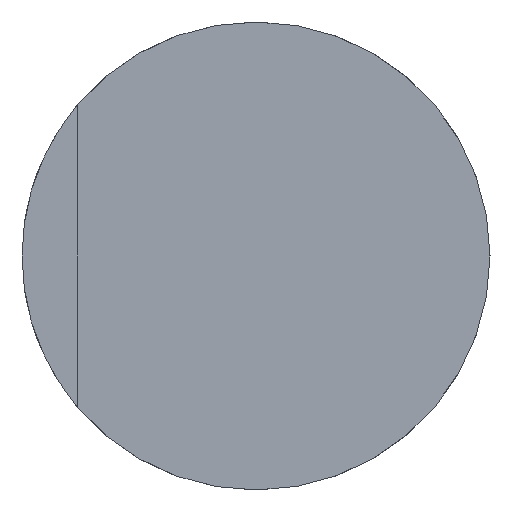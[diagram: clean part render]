
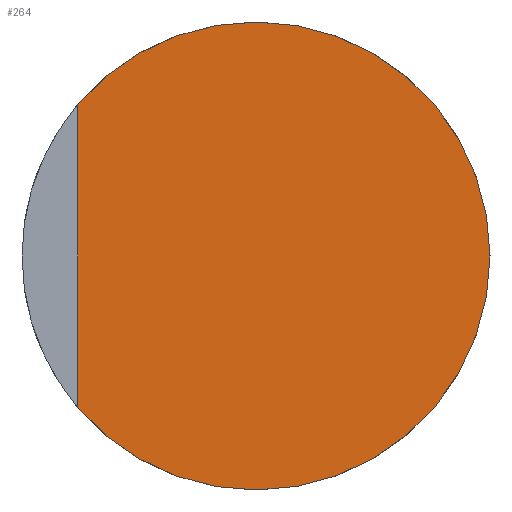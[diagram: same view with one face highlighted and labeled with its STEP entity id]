
A CAD part, left-side view. The second image highlights one B-rep face of the part: STEP entity #264.
In plain terms, the highlighted planar face has unit normal (-1, 0, 0).
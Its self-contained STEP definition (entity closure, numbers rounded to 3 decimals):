
#33 = CYLINDRICAL_SURFACE('',#34,4.);
#34 = AXIS2_PLACEMENT_3D('',#35,#36,#37);
#35 = CARTESIAN_POINT('',(-102.,0.,0.));
#36 = DIRECTION('',(-1.,-0.,-0.));
#37 = DIRECTION('',(0.,1.,0.));
#141 = VERTEX_POINT('',#142);
#142 = CARTESIAN_POINT('',(-102.,3.05,-2.588));
#155 = PLANE('',#156);
#156 = AXIS2_PLACEMENT_3D('',#157,#158,#159);
#157 = CARTESIAN_POINT('',(-103.,3.05,-5.));
#158 = DIRECTION('',(0.,1.,0.));
#159 = DIRECTION('',(0.,0.,1.));
#166 = EDGE_CURVE('',#167,#141,#169,.T.);
#167 = VERTEX_POINT('',#168);
#168 = CARTESIAN_POINT('',(-102.,3.05,2.588));
#169 = SURFACE_CURVE('',#170,(#175,#182),.PCURVE_S1.);
#170 = CIRCLE('',#171,4.);
#171 = AXIS2_PLACEMENT_3D('',#172,#173,#174);
#172 = CARTESIAN_POINT('',(-102.,0.,0.));
#173 = DIRECTION('',(1.,0.,0.));
#174 = DIRECTION('',(0.,1.,0.));
#175 = PCURVE('',#33,#176);
#176 = DEFINITIONAL_REPRESENTATION('',(#177),#181);
#177 = LINE('',#178,#179);
#178 = CARTESIAN_POINT('',(-0.,0.));
#179 = VECTOR('',#180,1.);
#180 = DIRECTION('',(-1.,0.));
#181 = ( GEOMETRIC_REPRESENTATION_CONTEXT(2) 
PARAMETRIC_REPRESENTATION_CONTEXT() REPRESENTATION_CONTEXT('2D SPACE',''
  ) );
#182 = PCURVE('',#183,#188);
#183 = PLANE('',#184);
#184 = AXIS2_PLACEMENT_3D('',#185,#186,#187);
#185 = CARTESIAN_POINT('',(-102.,0.,0.)
  );
#186 = DIRECTION('',(1.,0.,0.));
#187 = DIRECTION('',(-0.,0.,1.));
#188 = DEFINITIONAL_REPRESENTATION('',(#189),#193);
#189 = CIRCLE('',#190,4.);
#190 = AXIS2_PLACEMENT_2D('',#191,#192);
#191 = CARTESIAN_POINT('',(0.,0.));
#192 = DIRECTION('',(0.,-1.));
#193 = ( GEOMETRIC_REPRESENTATION_CONTEXT(2) 
PARAMETRIC_REPRESENTATION_CONTEXT() REPRESENTATION_CONTEXT('2D SPACE',''
  ) );
#245 = EDGE_CURVE('',#141,#167,#246,.T.);
#246 = SURFACE_CURVE('',#247,(#251,#257),.PCURVE_S1.);
#247 = LINE('',#248,#249);
#248 = CARTESIAN_POINT('',(-102.,3.05,-2.5));
#249 = VECTOR('',#250,1.);
#250 = DIRECTION('',(0.,0.,1.));
#251 = PCURVE('',#155,#252);
#252 = DEFINITIONAL_REPRESENTATION('',(#253),#256);
#253 = B_SPLINE_CURVE_WITH_KNOTS('',1,(#254,#255),.UNSPECIFIED.,.F.,.F.,
  (2,2),(-1.5,6.5),.PIECEWISE_BEZIER_KNOTS.);
#254 = CARTESIAN_POINT('',(1.,1.));
#255 = CARTESIAN_POINT('',(9.,1.));
#256 = ( GEOMETRIC_REPRESENTATION_CONTEXT(2) 
PARAMETRIC_REPRESENTATION_CONTEXT() REPRESENTATION_CONTEXT('2D SPACE',''
  ) );
#257 = PCURVE('',#183,#258);
#258 = DEFINITIONAL_REPRESENTATION('',(#259),#262);
#259 = B_SPLINE_CURVE_WITH_KNOTS('',1,(#260,#261),.UNSPECIFIED.,.F.,.F.,
  (2,2),(-1.5,6.5),.PIECEWISE_BEZIER_KNOTS.);
#260 = CARTESIAN_POINT('',(-4.,-3.05));
#261 = CARTESIAN_POINT('',(4.,-3.05));
#262 = ( GEOMETRIC_REPRESENTATION_CONTEXT(2) 
PARAMETRIC_REPRESENTATION_CONTEXT() REPRESENTATION_CONTEXT('2D SPACE',''
  ) );
#264 = ADVANCED_FACE('',(#265),#183,.F.);
#265 = FACE_BOUND('',#266,.F.);
#266 = EDGE_LOOP('',(#267,#268));
#267 = ORIENTED_EDGE('',*,*,#245,.T.);
#268 = ORIENTED_EDGE('',*,*,#166,.T.);
